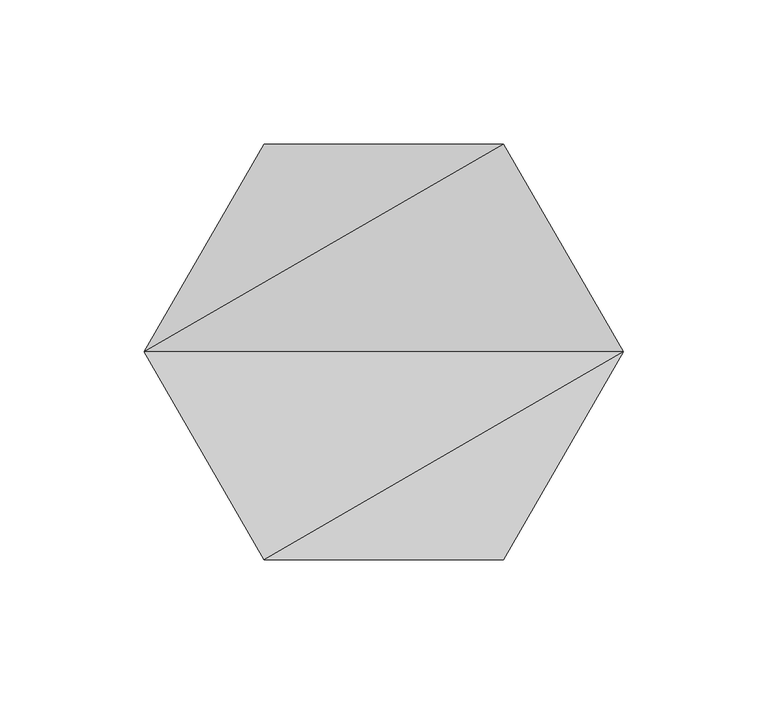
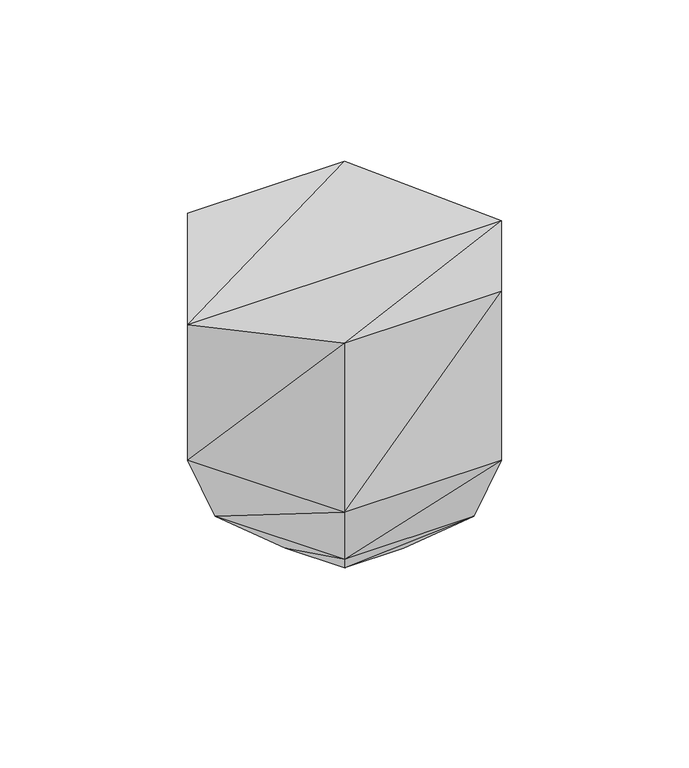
"""IFC4 building model written with IfcOpenShell, lengths in millimetres: geographic element geometry, Enscape AssetDefinition - Stack of Bowls 02 : Enscape AssetDefinition - Stack of Bowls 02."""

from ifc_helpers import new_model, si_unit, origin, place, context, project, spatial, faceted_brep, source, transform, mapped, element, save


def geographic_element_60f9364b(model_context):
    return source(origin(), model_context, "Body", "Brep", [
        faceted_brep([(34.3009941, 59.4105422, 31.1047416), (31.2089734, 0.0, 0.0), (15.6047931, 27.0280335, 0.0), (68.6019883, 0.0, 31.1047416), (15.6047931, -27.0280335, 0.0), (0.0, 0.0, 0.0), (-34.3009941, 59.4105422, 31.1047416), (-15.6047931, 27.0280335, 0.0), (41.5653661, 71.9932169, 67.4836338), (-41.5653661, 71.9932169, 67.4836338), (-68.6019883, 0.0, 31.1047416), (-83.1307322, 0.0, 67.4836338), (-31.2089734, 0.0, 0.0), (-15.6047931, -27.0280335, 0.0), (-34.3009941, -59.4105422, 31.1047416), (-41.5653661, -71.9932169, 67.4836338), (-83.1307322, 0.0, 143.3751285), (-41.5653661, -71.9932169, 162.2362733), (41.5653661, -71.9932169, 67.4836338), (41.5653661, -71.9932169, 162.2362733), (34.3009941, -59.4105422, 31.1047416), (83.1307322, 0.0, 67.4836338), (83.1307322, 0.0, 143.3751285), (41.5653661, 71.9932169, 147.4542916), (-41.5653661, 71.9932169, 147.4542916)], [[[0, 1, 2]], [[1, 0, 3]], [[3, 4, 1]], [[5, 2, 1]], [[5, 1, 4]], [[6, 2, 7]], [[2, 6, 0]], [[5, 7, 2]], [[8, 3, 0]], [[9, 0, 6]], [[0, 9, 8]], [[7, 10, 6]], [[11, 6, 10]], [[6, 11, 9]], [[10, 7, 12]], [[5, 12, 7]], [[5, 4, 13]], [[5, 13, 12]], [[14, 12, 13]], [[12, 14, 10]], [[15, 10, 14]], [[10, 15, 11]], [[16, 9, 11]], [[17, 11, 15]], [[11, 17, 16]], [[14, 18, 15]], [[19, 15, 18]], [[15, 19, 17]], [[13, 20, 14]], [[18, 14, 20]], [[20, 13, 4]], [[4, 3, 20]], [[21, 20, 3]], [[20, 21, 18]], [[22, 18, 21]], [[18, 22, 19]], [[22, 17, 19]], [[17, 22, 16]], [[21, 23, 22]], [[23, 16, 22]], [[3, 8, 21]], [[23, 21, 8]], [[8, 24, 23]], [[16, 23, 24]], [[24, 8, 9]], [[9, 16, 24]]]),
    ])


if __name__ == "__main__":
    model = new_model("IFC4")
    model_context = context("Model", 3, world=origin())
    ifc_project = project(units=[si_unit("LENGTHUNIT", "METRE", prefix="MILLI")], contexts=[model_context])
    site = spatial("IfcSite", under=ifc_project)
    building = spatial("IfcBuilding", under=site)
    placement = place(None, origin())
    geographic_element_shape = geographic_element_60f9364b(model_context)
    element("IfcGeographicElement", 1, ObjectType="Enscape AssetDefinition - Stack of Bowls 02 : Enscape AssetDefinition - Stack of Bowls 02", at=placement, inside=building, context=model_context, shape_type="MappedRepresentation", body=[
        mapped(geographic_element_shape, transform((0.0, 0.0, 0.0), x_axis=(1.0, 0.0, 0.0), y_axis=(0.0, 1.0, 0.0), z_axis=(0.0, 0.0, 1.0))),
    ])
    save(model, "model.ifc")
